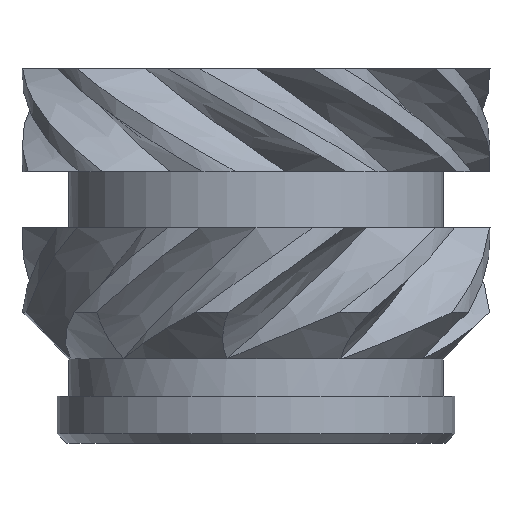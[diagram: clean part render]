
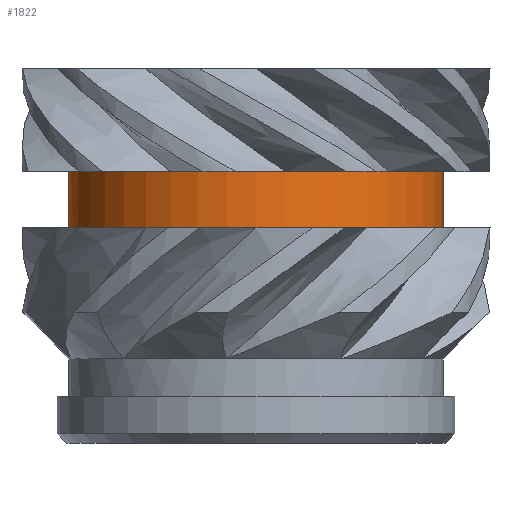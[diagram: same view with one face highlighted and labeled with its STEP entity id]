
A CAD part, front view. The second image highlights one B-rep face of the part: STEP entity #1822.
In plain terms, the highlighted cylindrical face has radius 2 mm (diameter 4 mm), a full revolution.
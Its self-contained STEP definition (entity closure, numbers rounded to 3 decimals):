
#212=FACE_OUTER_BOUND('',#333,.T.);
#333=EDGE_LOOP('',(#1638,#1639,#1640,#1641,#1642,#1643,#1644,#1645,#1646,
#1647,#1648,#1649,#1650,#1651,#1652,#1653,#1654,#1655,#1656,#1657,#1658,
#1659,#1660,#1661));
#340=CIRCLE('',#1859,2.);
#345=CIRCLE('',#1868,2.);
#349=CIRCLE('',#1875,2.);
#353=CIRCLE('',#1882,2.);
#357=CIRCLE('',#1889,2.);
#361=CIRCLE('',#1896,2.);
#366=CIRCLE('',#1904,2.);
#370=CIRCLE('',#1911,2.);
#371=CIRCLE('',#1912,2.);
#375=CIRCLE('',#1919,2.);
#391=CIRCLE('',#1940,2.);
#392=CIRCLE('',#1942,2.);
#394=CIRCLE('',#1946,2.);
#396=CIRCLE('',#1950,2.);
#398=CIRCLE('',#1954,2.);
#400=CIRCLE('',#1958,2.);
#402=CIRCLE('',#1962,2.);
#404=CIRCLE('',#1966,2.);
#406=CIRCLE('',#1970,2.);
#409=CIRCLE('',#1976,2.);
#410=CIRCLE('',#1978,2.);
#411=CIRCLE('',#1979,2.);
#619=LINE('',#5534,#640);
#640=VECTOR('',#2338,2.);
#681=VERTEX_POINT('',#2870);
#686=VERTEX_POINT('',#2929);
#692=VERTEX_POINT('',#2993);
#698=VERTEX_POINT('',#3080);
#704=VERTEX_POINT('',#3167);
#710=VERTEX_POINT('',#3254);
#716=VERTEX_POINT('',#3341);
#723=VERTEX_POINT('',#3430);
#729=VERTEX_POINT('',#3517);
#731=VERTEX_POINT('',#3552);
#736=VERTEX_POINT('',#3606);
#743=VERTEX_POINT('',#3738);
#776=VERTEX_POINT('',#3902);
#777=VERTEX_POINT('',#3926);
#780=VERTEX_POINT('',#3985);
#783=VERTEX_POINT('',#4044);
#786=VERTEX_POINT('',#4103);
#789=VERTEX_POINT('',#4162);
#792=VERTEX_POINT('',#4221);
#795=VERTEX_POINT('',#4280);
#798=VERTEX_POINT('',#4339);
#802=VERTEX_POINT('',#4394);
#869=EDGE_CURVE('',#681,#686,#340,.T.);
#882=EDGE_CURVE('',#692,#681,#345,.T.);
#893=EDGE_CURVE('',#698,#692,#349,.T.);
#904=EDGE_CURVE('',#704,#698,#353,.T.);
#915=EDGE_CURVE('',#710,#704,#357,.T.);
#926=EDGE_CURVE('',#716,#710,#361,.T.);
#938=EDGE_CURVE('',#723,#716,#366,.T.);
#949=EDGE_CURVE('',#731,#723,#370,.T.);
#950=EDGE_CURVE('',#729,#731,#371,.T.);
#961=EDGE_CURVE('',#736,#729,#375,.T.);
#1008=EDGE_CURVE('',#743,#776,#391,.T.);
#1010=EDGE_CURVE('',#686,#736,#392,.T.);
#1017=EDGE_CURVE('',#777,#743,#394,.T.);
#1024=EDGE_CURVE('',#780,#777,#396,.T.);
#1031=EDGE_CURVE('',#783,#780,#398,.T.);
#1038=EDGE_CURVE('',#786,#783,#400,.T.);
#1045=EDGE_CURVE('',#789,#786,#402,.T.);
#1052=EDGE_CURVE('',#792,#789,#404,.T.);
#1059=EDGE_CURVE('',#795,#792,#406,.T.);
#1069=EDGE_CURVE('',#776,#798,#409,.T.);
#1070=EDGE_CURVE('',#798,#802,#410,.T.);
#1071=EDGE_CURVE('',#802,#795,#411,.T.);
#1095=EDGE_CURVE('',#802,#731,#619,.T.);
#1638=ORIENTED_EDGE('',*,*,#1017,.F.);
#1639=ORIENTED_EDGE('',*,*,#1024,.F.);
#1640=ORIENTED_EDGE('',*,*,#1031,.F.);
#1641=ORIENTED_EDGE('',*,*,#1038,.F.);
#1642=ORIENTED_EDGE('',*,*,#1045,.F.);
#1643=ORIENTED_EDGE('',*,*,#1052,.F.);
#1644=ORIENTED_EDGE('',*,*,#1059,.F.);
#1645=ORIENTED_EDGE('',*,*,#1071,.F.);
#1646=ORIENTED_EDGE('',*,*,#1095,.T.);
#1647=ORIENTED_EDGE('',*,*,#949,.T.);
#1648=ORIENTED_EDGE('',*,*,#938,.T.);
#1649=ORIENTED_EDGE('',*,*,#926,.T.);
#1650=ORIENTED_EDGE('',*,*,#915,.T.);
#1651=ORIENTED_EDGE('',*,*,#904,.T.);
#1652=ORIENTED_EDGE('',*,*,#893,.T.);
#1653=ORIENTED_EDGE('',*,*,#882,.T.);
#1654=ORIENTED_EDGE('',*,*,#869,.T.);
#1655=ORIENTED_EDGE('',*,*,#1010,.T.);
#1656=ORIENTED_EDGE('',*,*,#961,.T.);
#1657=ORIENTED_EDGE('',*,*,#950,.T.);
#1658=ORIENTED_EDGE('',*,*,#1095,.F.);
#1659=ORIENTED_EDGE('',*,*,#1070,.F.);
#1660=ORIENTED_EDGE('',*,*,#1069,.F.);
#1661=ORIENTED_EDGE('',*,*,#1008,.F.);
#1704=CYLINDRICAL_SURFACE('',#1996,2.);
#1822=ADVANCED_FACE('',(#212),#1704,.T.);
#1859=AXIS2_PLACEMENT_3D('',#2934,#2057,#2058);
#1868=AXIS2_PLACEMENT_3D('',#3028,#2075,#2076);
#1875=AXIS2_PLACEMENT_3D('',#3115,#2089,#2090);
#1882=AXIS2_PLACEMENT_3D('',#3202,#2103,#2104);
#1889=AXIS2_PLACEMENT_3D('',#3289,#2117,#2118);
#1896=AXIS2_PLACEMENT_3D('',#3376,#2131,#2132);
#1904=AXIS2_PLACEMENT_3D('',#3465,#2147,#2148);
#1911=AXIS2_PLACEMENT_3D('',#3553,#2161,#2162);
#1912=AXIS2_PLACEMENT_3D('',#3554,#2163,#2164);
#1919=AXIS2_PLACEMENT_3D('',#3641,#2177,#2178);
#1940=AXIS2_PLACEMENT_3D('',#3903,#2219,#2220);
#1942=AXIS2_PLACEMENT_3D('',#3909,#2223,#2224);
#1946=AXIS2_PLACEMENT_3D('',#3968,#2231,#2232);
#1950=AXIS2_PLACEMENT_3D('',#4027,#2239,#2240);
#1954=AXIS2_PLACEMENT_3D('',#4086,#2247,#2248);
#1958=AXIS2_PLACEMENT_3D('',#4145,#2255,#2256);
#1962=AXIS2_PLACEMENT_3D('',#4204,#2263,#2264);
#1966=AXIS2_PLACEMENT_3D('',#4263,#2271,#2272);
#1970=AXIS2_PLACEMENT_3D('',#4322,#2279,#2280);
#1976=AXIS2_PLACEMENT_3D('',#4392,#2291,#2292);
#1978=AXIS2_PLACEMENT_3D('',#4395,#2295,#2296);
#1979=AXIS2_PLACEMENT_3D('',#4396,#2297,#2298);
#1996=AXIS2_PLACEMENT_3D('',#5533,#2336,#2337);
#2057=DIRECTION('center_axis',(0.,0.,1.));
#2058=DIRECTION('ref_axis',(1.,0.,0.));
#2075=DIRECTION('center_axis',(0.,0.,1.));
#2076=DIRECTION('ref_axis',(1.,0.,0.));
#2089=DIRECTION('center_axis',(0.,0.,1.));
#2090=DIRECTION('ref_axis',(1.,0.,0.));
#2103=DIRECTION('center_axis',(0.,0.,1.));
#2104=DIRECTION('ref_axis',(1.,0.,0.));
#2117=DIRECTION('center_axis',(0.,0.,1.));
#2118=DIRECTION('ref_axis',(1.,0.,0.));
#2131=DIRECTION('center_axis',(0.,0.,1.));
#2132=DIRECTION('ref_axis',(1.,0.,0.));
#2147=DIRECTION('center_axis',(0.,0.,1.));
#2148=DIRECTION('ref_axis',(1.,0.,0.));
#2161=DIRECTION('center_axis',(0.,0.,1.));
#2162=DIRECTION('ref_axis',(1.,0.,0.));
#2163=DIRECTION('center_axis',(0.,0.,1.));
#2164=DIRECTION('ref_axis',(1.,0.,0.));
#2177=DIRECTION('center_axis',(0.,0.,1.));
#2178=DIRECTION('ref_axis',(1.,0.,0.));
#2219=DIRECTION('center_axis',(0.,0.,1.));
#2220=DIRECTION('ref_axis',(1.,0.,0.));
#2223=DIRECTION('center_axis',(0.,0.,1.));
#2224=DIRECTION('ref_axis',(1.,0.,0.));
#2231=DIRECTION('center_axis',(0.,0.,1.));
#2232=DIRECTION('ref_axis',(1.,0.,0.));
#2239=DIRECTION('center_axis',(0.,0.,1.));
#2240=DIRECTION('ref_axis',(1.,0.,0.));
#2247=DIRECTION('center_axis',(0.,0.,1.));
#2248=DIRECTION('ref_axis',(1.,0.,0.));
#2255=DIRECTION('center_axis',(0.,0.,1.));
#2256=DIRECTION('ref_axis',(1.,0.,0.));
#2263=DIRECTION('center_axis',(0.,0.,1.));
#2264=DIRECTION('ref_axis',(1.,0.,0.));
#2271=DIRECTION('center_axis',(0.,0.,1.));
#2272=DIRECTION('ref_axis',(1.,0.,0.));
#2279=DIRECTION('center_axis',(0.,0.,1.));
#2280=DIRECTION('ref_axis',(1.,0.,0.));
#2291=DIRECTION('center_axis',(0.,0.,1.));
#2292=DIRECTION('ref_axis',(1.,0.,0.));
#2295=DIRECTION('center_axis',(0.,0.,1.));
#2296=DIRECTION('ref_axis',(1.,0.,0.));
#2297=DIRECTION('center_axis',(0.,0.,1.));
#2298=DIRECTION('ref_axis',(1.,0.,0.));
#2336=DIRECTION('center_axis',(0.,0.,1.));
#2337=DIRECTION('ref_axis',(1.,0.,0.));
#2338=DIRECTION('',(0.,0.,-1.));
#2870=CARTESIAN_POINT('',(1.176,1.618,2.3));
#2929=CARTESIAN_POINT('',(0.,2.,2.3));
#2934=CARTESIAN_POINT('Origin',(0.,0.,2.3));
#2993=CARTESIAN_POINT('',(1.902,0.618,2.3));
#3028=CARTESIAN_POINT('Origin',(0.,0.,2.3));
#3080=CARTESIAN_POINT('',(1.902,-0.618,2.3));
#3115=CARTESIAN_POINT('Origin',(0.,0.,2.3));
#3167=CARTESIAN_POINT('',(1.176,-1.618,2.3));
#3202=CARTESIAN_POINT('Origin',(0.,0.,2.3));
#3254=CARTESIAN_POINT('',(0.,-2.,2.3));
#3289=CARTESIAN_POINT('Origin',(0.,0.,2.3));
#3341=CARTESIAN_POINT('',(-1.176,-1.618,2.3));
#3376=CARTESIAN_POINT('Origin',(0.,0.,2.3));
#3430=CARTESIAN_POINT('',(-1.902,-0.618,2.3));
#3465=CARTESIAN_POINT('Origin',(0.,0.,2.3));
#3517=CARTESIAN_POINT('',(-1.902,0.618,2.3));
#3552=CARTESIAN_POINT('',(-2.,0.,2.3));
#3553=CARTESIAN_POINT('Origin',(0.,0.,2.3));
#3554=CARTESIAN_POINT('Origin',(0.,0.,2.3));
#3606=CARTESIAN_POINT('',(-1.176,1.618,2.3));
#3641=CARTESIAN_POINT('Origin',(0.,0.,2.3));
#3738=CARTESIAN_POINT('',(-0.313,1.975,2.9));
#3902=CARTESIAN_POINT('',(-1.414,1.414,2.9));
#3903=CARTESIAN_POINT('Origin',(0.,0.,2.9));
#3909=CARTESIAN_POINT('Origin',(0.,0.,2.3));
#3926=CARTESIAN_POINT('',(0.908,1.782,2.9));
#3968=CARTESIAN_POINT('Origin',(0.,0.,2.9));
#3985=CARTESIAN_POINT('',(1.782,0.908,2.9));
#4027=CARTESIAN_POINT('Origin',(0.,0.,2.9));
#4044=CARTESIAN_POINT('',(1.975,-0.313,2.9));
#4086=CARTESIAN_POINT('Origin',(0.,0.,2.9));
#4103=CARTESIAN_POINT('',(1.414,-1.414,2.9));
#4145=CARTESIAN_POINT('Origin',(0.,0.,2.9));
#4162=CARTESIAN_POINT('',(0.313,-1.975,2.9));
#4204=CARTESIAN_POINT('Origin',(0.,0.,2.9));
#4221=CARTESIAN_POINT('',(-0.908,-1.782,2.9));
#4263=CARTESIAN_POINT('Origin',(0.,0.,2.9));
#4280=CARTESIAN_POINT('',(-1.782,-0.908,2.9));
#4322=CARTESIAN_POINT('Origin',(0.,0.,2.9));
#4339=CARTESIAN_POINT('',(-1.975,0.313,2.9));
#4392=CARTESIAN_POINT('Origin',(0.,0.,2.9));
#4394=CARTESIAN_POINT('',(-2.,0.,2.9));
#4395=CARTESIAN_POINT('Origin',(0.,0.,2.9));
#4396=CARTESIAN_POINT('Origin',(0.,0.,2.9));
#5533=CARTESIAN_POINT('Origin',(0.,0.,2.6));
#5534=CARTESIAN_POINT('',(-2.,0.,2.6));
